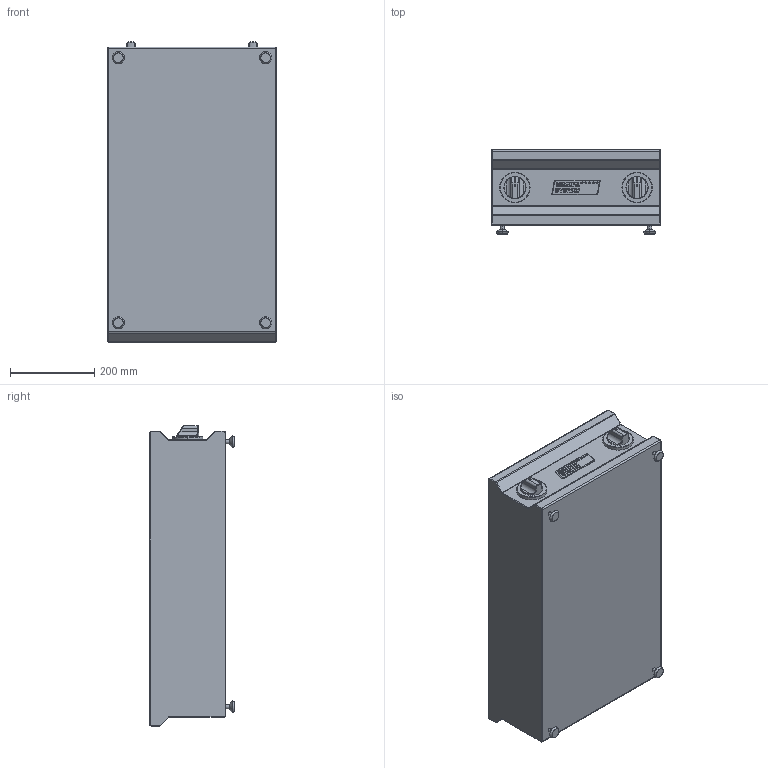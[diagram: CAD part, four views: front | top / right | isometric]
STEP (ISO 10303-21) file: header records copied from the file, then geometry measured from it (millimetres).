
FILE_DESCRIPTION (( 'STEP AP214' ), '1' );
FILE_NAME ('MS-I-20P.STEP', '2015-08-05T09:19:33', ( 'T. Weiss' ), ( 'Menusystem AG' ), 'SwSTEP 2.0', 'SolidWorks 2012', '' );
FILE_SCHEMA (( 'AUTOMOTIVE_DESIGN' ));
Length unit declared in the file: millimetre
Products named in the file (1): MS-I-20P
Bounding box: 400 x 200.17 x 712.43 mm (x, y, z)
Volume: 48327421.8 mm3; surface area: 999389.6 mm2
Topology: 1 solids, 7 shells, 570 faces, 1449 edges, 916 vertices
Faces by surface type: plane 298, cylinder 124, bspline 106, cone 42
Entity records: 22881 total; most frequent: CARTESIAN_POINT 9636, ORIENTED_EDGE 2890, DIRECTION 2493, EDGE_CURVE 1445, VECTOR 927, LINE 927, VERTEX_POINT 916, AXIS2_PLACEMENT_3D 783
